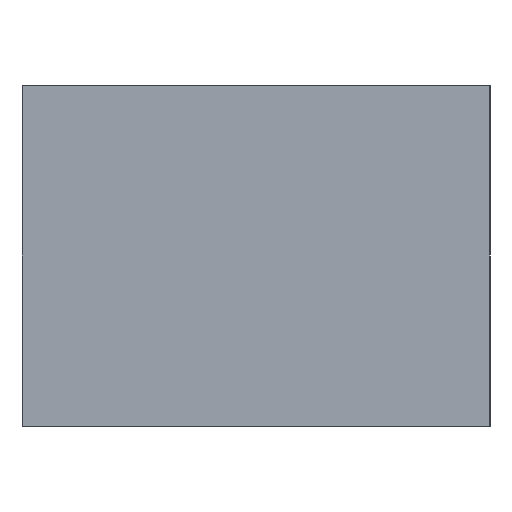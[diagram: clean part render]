
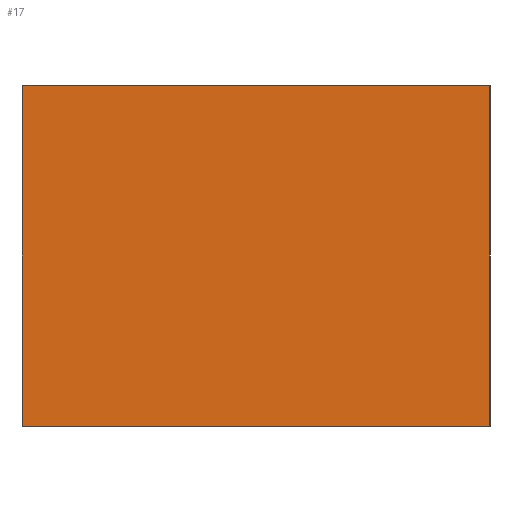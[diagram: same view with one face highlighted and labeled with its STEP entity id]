
A CAD part, left-side view. The second image highlights one B-rep face of the part: STEP entity #17.
In plain terms, the highlighted planar face has unit normal (-1, 0, 0).
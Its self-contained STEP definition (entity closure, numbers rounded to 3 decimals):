
#17 = ADVANCED_FACE('',(#18),#32,.F.);
#18 = FACE_BOUND('',#19,.F.);
#19 = EDGE_LOOP('',(#20,#55,#83,#111));
#20 = ORIENTED_EDGE('',*,*,#21,.F.);
#21 = EDGE_CURVE('',#22,#24,#26,.T.);
#22 = VERTEX_POINT('',#23);
#23 = CARTESIAN_POINT('',(-0.525,-0.275,0.));
#24 = VERTEX_POINT('',#25);
#25 = CARTESIAN_POINT('',(-0.525,-0.275,0.4));
#26 = SURFACE_CURVE('',#27,(#31,#43),.PCURVE_S1.);
#27 = LINE('',#28,#29);
#28 = CARTESIAN_POINT('',(-0.525,-0.275,0.));
#29 = VECTOR('',#30,1.);
#30 = DIRECTION('',(0.,0.,1.));
#31 = PCURVE('',#32,#37);
#32 = PLANE('',#33);
#33 = AXIS2_PLACEMENT_3D('',#34,#35,#36);
#34 = CARTESIAN_POINT('',(-0.525,-0.275,0.));
#35 = DIRECTION('',(1.,0.,0.));
#36 = DIRECTION('',(0.,0.,1.));
#37 = DEFINITIONAL_REPRESENTATION('',(#38),#42);
#38 = LINE('',#39,#40);
#39 = CARTESIAN_POINT('',(0.,0.));
#40 = VECTOR('',#41,1.);
#41 = DIRECTION('',(1.,0.));
#42 = ( GEOMETRIC_REPRESENTATION_CONTEXT(2) 
PARAMETRIC_REPRESENTATION_CONTEXT() REPRESENTATION_CONTEXT('2D SPACE',''
  ) );
#43 = PCURVE('',#44,#49);
#44 = PLANE('',#45);
#45 = AXIS2_PLACEMENT_3D('',#46,#47,#48);
#46 = CARTESIAN_POINT('',(-0.525,-0.275,0.));
#47 = DIRECTION('',(0.,1.,0.));
#48 = DIRECTION('',(0.,0.,1.));
#49 = DEFINITIONAL_REPRESENTATION('',(#50),#54);
#50 = LINE('',#51,#52);
#51 = CARTESIAN_POINT('',(0.,0.));
#52 = VECTOR('',#53,1.);
#53 = DIRECTION('',(1.,0.));
#54 = ( GEOMETRIC_REPRESENTATION_CONTEXT(2) 
PARAMETRIC_REPRESENTATION_CONTEXT() REPRESENTATION_CONTEXT('2D SPACE',''
  ) );
#55 = ORIENTED_EDGE('',*,*,#56,.T.);
#56 = EDGE_CURVE('',#22,#57,#59,.T.);
#57 = VERTEX_POINT('',#58);
#58 = CARTESIAN_POINT('',(-0.525,0.275,0.));
#59 = SURFACE_CURVE('',#60,(#64,#71),.PCURVE_S1.);
#60 = LINE('',#61,#62);
#61 = CARTESIAN_POINT('',(-0.525,-0.275,0.));
#62 = VECTOR('',#63,1.);
#63 = DIRECTION('',(0.,1.,0.));
#64 = PCURVE('',#32,#65);
#65 = DEFINITIONAL_REPRESENTATION('',(#66),#70);
#66 = LINE('',#67,#68);
#67 = CARTESIAN_POINT('',(0.,0.));
#68 = VECTOR('',#69,1.);
#69 = DIRECTION('',(0.,-1.));
#70 = ( GEOMETRIC_REPRESENTATION_CONTEXT(2) 
PARAMETRIC_REPRESENTATION_CONTEXT() REPRESENTATION_CONTEXT('2D SPACE',''
  ) );
#71 = PCURVE('',#72,#77);
#72 = PLANE('',#73);
#73 = AXIS2_PLACEMENT_3D('',#74,#75,#76);
#74 = CARTESIAN_POINT('',(-0.525,-0.275,0.));
#75 = DIRECTION('',(0.,0.,1.));
#76 = DIRECTION('',(1.,0.,0.));
#77 = DEFINITIONAL_REPRESENTATION('',(#78),#82);
#78 = LINE('',#79,#80);
#79 = CARTESIAN_POINT('',(0.,0.));
#80 = VECTOR('',#81,1.);
#81 = DIRECTION('',(0.,1.));
#82 = ( GEOMETRIC_REPRESENTATION_CONTEXT(2) 
PARAMETRIC_REPRESENTATION_CONTEXT() REPRESENTATION_CONTEXT('2D SPACE',''
  ) );
#83 = ORIENTED_EDGE('',*,*,#84,.T.);
#84 = EDGE_CURVE('',#57,#85,#87,.T.);
#85 = VERTEX_POINT('',#86);
#86 = CARTESIAN_POINT('',(-0.525,0.275,0.4));
#87 = SURFACE_CURVE('',#88,(#92,#99),.PCURVE_S1.);
#88 = LINE('',#89,#90);
#89 = CARTESIAN_POINT('',(-0.525,0.275,0.));
#90 = VECTOR('',#91,1.);
#91 = DIRECTION('',(0.,0.,1.));
#92 = PCURVE('',#32,#93);
#93 = DEFINITIONAL_REPRESENTATION('',(#94),#98);
#94 = LINE('',#95,#96);
#95 = CARTESIAN_POINT('',(0.,-0.55));
#96 = VECTOR('',#97,1.);
#97 = DIRECTION('',(1.,0.));
#98 = ( GEOMETRIC_REPRESENTATION_CONTEXT(2) 
PARAMETRIC_REPRESENTATION_CONTEXT() REPRESENTATION_CONTEXT('2D SPACE',''
  ) );
#99 = PCURVE('',#100,#105);
#100 = PLANE('',#101);
#101 = AXIS2_PLACEMENT_3D('',#102,#103,#104);
#102 = CARTESIAN_POINT('',(-0.525,0.275,0.));
#103 = DIRECTION('',(0.,1.,0.));
#104 = DIRECTION('',(0.,0.,1.));
#105 = DEFINITIONAL_REPRESENTATION('',(#106),#110);
#106 = LINE('',#107,#108);
#107 = CARTESIAN_POINT('',(0.,0.));
#108 = VECTOR('',#109,1.);
#109 = DIRECTION('',(1.,0.));
#110 = ( GEOMETRIC_REPRESENTATION_CONTEXT(2) 
PARAMETRIC_REPRESENTATION_CONTEXT() REPRESENTATION_CONTEXT('2D SPACE',''
  ) );
#111 = ORIENTED_EDGE('',*,*,#112,.F.);
#112 = EDGE_CURVE('',#24,#85,#113,.T.);
#113 = SURFACE_CURVE('',#114,(#118,#125),.PCURVE_S1.);
#114 = LINE('',#115,#116);
#115 = CARTESIAN_POINT('',(-0.525,-0.275,0.4));
#116 = VECTOR('',#117,1.);
#117 = DIRECTION('',(0.,1.,0.));
#118 = PCURVE('',#32,#119);
#119 = DEFINITIONAL_REPRESENTATION('',(#120),#124);
#120 = LINE('',#121,#122);
#121 = CARTESIAN_POINT('',(0.4,0.));
#122 = VECTOR('',#123,1.);
#123 = DIRECTION('',(0.,-1.));
#124 = ( GEOMETRIC_REPRESENTATION_CONTEXT(2) 
PARAMETRIC_REPRESENTATION_CONTEXT() REPRESENTATION_CONTEXT('2D SPACE',''
  ) );
#125 = PCURVE('',#126,#131);
#126 = PLANE('',#127);
#127 = AXIS2_PLACEMENT_3D('',#128,#129,#130);
#128 = CARTESIAN_POINT('',(-0.525,-0.275,0.4));
#129 = DIRECTION('',(0.,0.,1.));
#130 = DIRECTION('',(1.,0.,0.));
#131 = DEFINITIONAL_REPRESENTATION('',(#132),#136);
#132 = LINE('',#133,#134);
#133 = CARTESIAN_POINT('',(0.,0.));
#134 = VECTOR('',#135,1.);
#135 = DIRECTION('',(0.,1.));
#136 = ( GEOMETRIC_REPRESENTATION_CONTEXT(2) 
PARAMETRIC_REPRESENTATION_CONTEXT() REPRESENTATION_CONTEXT('2D SPACE',''
  ) );
